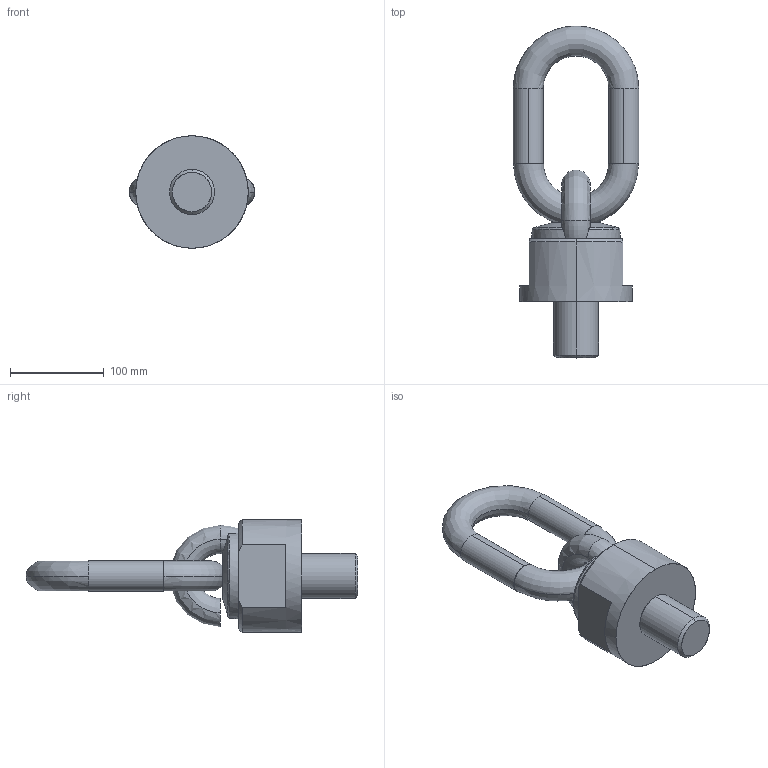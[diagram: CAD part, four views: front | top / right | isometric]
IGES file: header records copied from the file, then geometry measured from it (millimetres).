
Start section: START RECORD GO HERE.
Global section: file name: C800X1704860.igs; native system: DASSAULT SYSTEMES CATIA V5 R20 - www.3ds.com; preprocessor: CATIA Version 5 Release 20 ; author: Utente; organization: NB04-ASUS; date: 20200412.221344; units: millimetre
Bounding box: 134 x 354 x 120 mm (x, y, z)
Surface area: 116038.7 mm2 (no closed solid volume)
Topology: 0 solids, 0 shells, 42 faces, 236 edges, 236 vertices
Faces by surface type: revolution 30, extrusion 12
